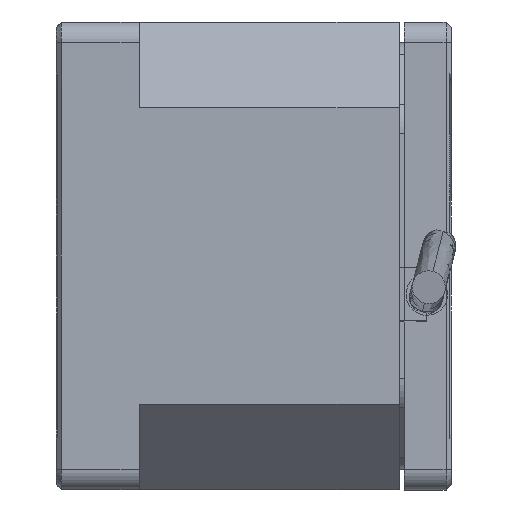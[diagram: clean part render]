
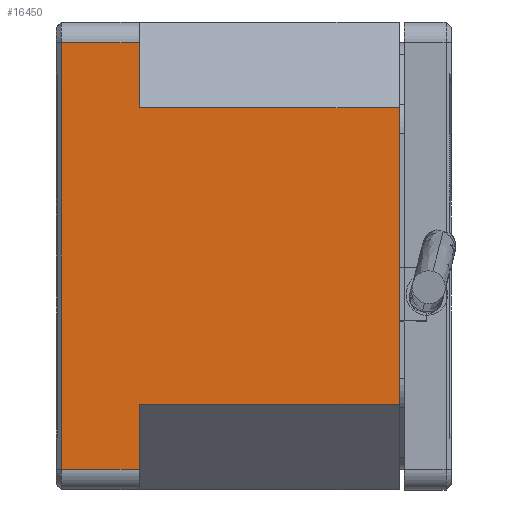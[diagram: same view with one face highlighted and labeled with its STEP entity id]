
A CAD part, left-side view. The second image highlights one B-rep face of the part: STEP entity #16450.
In plain terms, the highlighted planar face has unit normal (-1, 0, 0).
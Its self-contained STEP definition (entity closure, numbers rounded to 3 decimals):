
#378 = DIRECTION ( 'NONE',  ( -1., 0., 0. ) ) ;
#533 = CARTESIAN_POINT ( 'NONE',  ( -22.5, -0.5, 20.5 ) ) ;
#545 = CARTESIAN_POINT ( 'NONE',  ( -22.5, -0.5, -22.5 ) ) ;
#669 = DIRECTION ( 'NONE',  ( 0., 0., -1. ) ) ;
#882 = CARTESIAN_POINT ( 'NONE',  ( -22.5, -0.5, -20.5 ) ) ;
#990 = CARTESIAN_POINT ( 'NONE',  ( -22.5, -8., -14.27 ) ) ;
#1233 = VERTEX_POINT ( 'NONE', #533 ) ;
#1494 = DIRECTION ( 'NONE',  ( 0., -1., 0. ) ) ;
#1734 = EDGE_CURVE ( 'NONE', #2786, #5994, #3060, .T. ) ;
#1920 = EDGE_CURVE ( 'NONE', #9174, #2786, #6886, .T. ) ;
#2270 = CARTESIAN_POINT ( 'NONE',  ( -22.5, -33., -20.5 ) ) ;
#2417 = VECTOR ( 'NONE', #1494, 1000. ) ;
#2468 = CARTESIAN_POINT ( 'NONE',  ( -22.5, -33., 20.5 ) ) ;
#2786 = VERTEX_POINT ( 'NONE', #990 ) ;
#2817 = CARTESIAN_POINT ( 'NONE',  ( -22.5, -8., 14.27 ) ) ;
#2884 = DIRECTION ( 'NONE',  ( 0., 0., 1. ) ) ;
#3043 = LINE ( 'NONE', #545, #13735 ) ;
#3060 = LINE ( 'NONE', #6780, #2417 ) ;
#4219 = EDGE_CURVE ( 'NONE', #1233, #10797, #3043, .T. ) ;
#4506 = VECTOR ( 'NONE', #6234, 1000. ) ;
#4747 = ORIENTED_EDGE ( 'NONE', *, *, #4219, .T. ) ;
#5117 = EDGE_CURVE ( 'NONE', #7093, #12013, #6192, .T. ) ;
#5143 = LINE ( 'NONE', #2270, #4506 ) ;
#5420 = LINE ( 'NONE', #2817, #16399 ) ;
#5435 = EDGE_CURVE ( 'NONE', #7093, #1233, #9644, .T. ) ;
#5994 = VERTEX_POINT ( 'NONE', #14539 ) ;
#6192 = LINE ( 'NONE', #8214, #12624 ) ;
#6234 = DIRECTION ( 'NONE',  ( 0., -1., 0. ) ) ;
#6241 = VECTOR ( 'NONE', #16790, 1000. ) ;
#6245 = EDGE_LOOP ( 'NONE', ( #7145, #12386, #10409, #14269, #7968, #8054, #4747, #9768 ) ) ;
#6294 = LINE ( 'NONE', #13880, #8202 ) ;
#6780 = CARTESIAN_POINT ( 'NONE',  ( -22.5, -8., -14.27 ) ) ;
#6886 = LINE ( 'NONE', #15403, #6241 ) ;
#7093 = VERTEX_POINT ( 'NONE', #14494 ) ;
#7145 = ORIENTED_EDGE ( 'NONE', *, *, #1920, .T. ) ;
#7968 = ORIENTED_EDGE ( 'NONE', *, *, #5117, .F. ) ;
#8054 = ORIENTED_EDGE ( 'NONE', *, *, #5435, .T. ) ;
#8154 = DIRECTION ( 'NONE',  ( 0., 0., -1. ) ) ;
#8202 = VECTOR ( 'NONE', #2884, 1000. ) ;
#8214 = CARTESIAN_POINT ( 'NONE',  ( -22.5, -8., 14.27 ) ) ;
#8398 = EDGE_CURVE ( 'NONE', #5994, #11062, #6294, .T. ) ;
#9174 = VERTEX_POINT ( 'NONE', #14532 ) ;
#9584 = CARTESIAN_POINT ( 'NONE',  ( -22.5, -8., 14.27 ) ) ;
#9644 = LINE ( 'NONE', #2468, #16493 ) ;
#9768 = ORIENTED_EDGE ( 'NONE', *, *, #11423, .T. ) ;
#9895 = EDGE_CURVE ( 'NONE', #12013, #11062, #5420, .T. ) ;
#9952 = DIRECTION ( 'NONE',  ( 0., 0., 1. ) ) ;
#10409 = ORIENTED_EDGE ( 'NONE', *, *, #8398, .T. ) ;
#10797 = VERTEX_POINT ( 'NONE', #882 ) ;
#11062 = VERTEX_POINT ( 'NONE', #17614 ) ;
#11423 = EDGE_CURVE ( 'NONE', #10797, #9174, #5143, .T. ) ;
#11966 = DIRECTION ( 'NONE',  ( 0., 1., 0. ) ) ;
#12013 = VERTEX_POINT ( 'NONE', #9584 ) ;
#12386 = ORIENTED_EDGE ( 'NONE', *, *, #1734, .T. ) ;
#12624 = VECTOR ( 'NONE', #8154, 1000. ) ;
#13117 = FACE_OUTER_BOUND ( 'NONE', #6245, .T. ) ;
#13735 = VECTOR ( 'NONE', #669, 1000. ) ;
#13880 = CARTESIAN_POINT ( 'NONE',  ( -22.5, -33., -22.5 ) ) ;
#14269 = ORIENTED_EDGE ( 'NONE', *, *, #9895, .F. ) ;
#14494 = CARTESIAN_POINT ( 'NONE',  ( -22.5, -8., 20.5 ) ) ;
#14532 = CARTESIAN_POINT ( 'NONE',  ( -22.5, -8., -20.5 ) ) ;
#14539 = CARTESIAN_POINT ( 'NONE',  ( -22.5, -33., -14.27 ) ) ;
#15123 = DIRECTION ( 'NONE',  ( 0., -1., 0. ) ) ;
#15403 = CARTESIAN_POINT ( 'NONE',  ( -22.5, -8., -14.27 ) ) ;
#15517 = PLANE ( 'NONE',  #16532 ) ;
#16399 = VECTOR ( 'NONE', #15123, 1000. ) ;
#16450 = ADVANCED_FACE ( 'NONE', ( #13117 ), #15517, .T. ) ;
#16493 = VECTOR ( 'NONE', #11966, 1000. ) ;
#16532 = AXIS2_PLACEMENT_3D ( 'NONE', #16778, #378, #9952 ) ;
#16778 = CARTESIAN_POINT ( 'NONE',  ( -22.5, -33., -22.5 ) ) ;
#16790 = DIRECTION ( 'NONE',  ( 0., 0., 1. ) ) ;
#17614 = CARTESIAN_POINT ( 'NONE',  ( -22.5, -33., 14.27 ) ) ;
